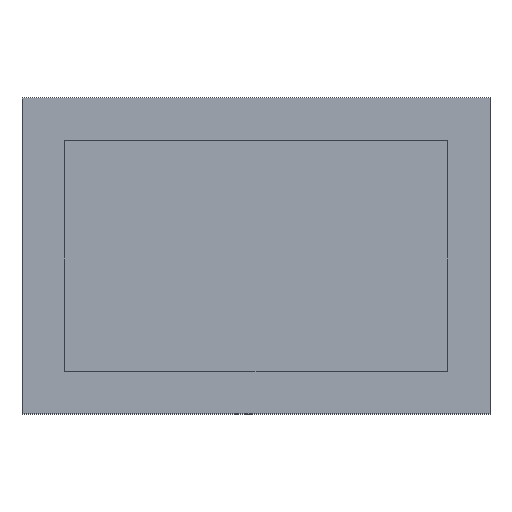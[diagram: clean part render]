
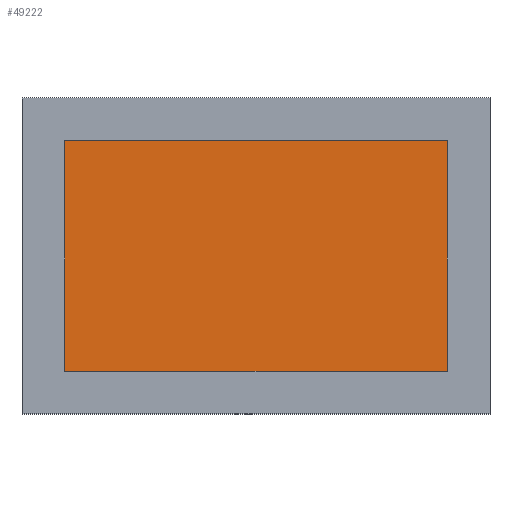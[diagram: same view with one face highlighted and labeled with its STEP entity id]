
A CAD part, top view. The second image highlights one B-rep face of the part: STEP entity #49222.
In plain terms, the highlighted planar face has unit normal (0, 0, 1).
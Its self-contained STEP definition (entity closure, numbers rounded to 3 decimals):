
#560 = EDGE_CURVE ( 'NONE', #6638, #21269, #36019, .T. ) ;
#2848 = DIRECTION ( 'NONE',  ( 0., 0., -1. ) ) ;
#3697 = ORIENTED_EDGE ( 'NONE', *, *, #30766, .T. ) ;
#4094 = FACE_OUTER_BOUND ( 'NONE', #26899, .T. ) ;
#4947 = VECTOR ( 'NONE', #54020, 1000. ) ;
#4971 = ORIENTED_EDGE ( 'NONE', *, *, #30469, .T. ) ;
#5903 = CARTESIAN_POINT ( 'NONE',  ( 54.4, -32.8, 0. ) ) ;
#6638 = VERTEX_POINT ( 'NONE', #29514 ) ;
#9417 = VECTOR ( 'NONE', #62540, 1000. ) ;
#10260 = CARTESIAN_POINT ( 'NONE',  ( 54.4, -32.8, 0. ) ) ;
#10744 = VERTEX_POINT ( 'NONE', #30185 ) ;
#11559 = DIRECTION ( 'NONE',  ( -1., 0., 0. ) ) ;
#12784 = LINE ( 'NONE', #32407, #35816 ) ;
#13429 = CARTESIAN_POINT ( 'NONE',  ( 0., 0., 0. ) ) ;
#17964 = ORIENTED_EDGE ( 'NONE', *, *, #560, .T. ) ;
#19587 = LINE ( 'NONE', #10260, #4947 ) ;
#20822 = AXIS2_PLACEMENT_3D ( 'NONE', #13429, #2848, #27882 ) ;
#21269 = VERTEX_POINT ( 'NONE', #26399 ) ;
#23693 = PLANE ( 'NONE',  #20822 ) ;
#26399 = CARTESIAN_POINT ( 'NONE',  ( -54.4, 32.8, 0. ) ) ;
#26601 = VECTOR ( 'NONE', #11559, 1000. ) ;
#26899 = EDGE_LOOP ( 'NONE', ( #58358, #17964, #3697, #4971 ) ) ;
#27882 = DIRECTION ( 'NONE',  ( -1., 0., 0. ) ) ;
#28416 = CARTESIAN_POINT ( 'NONE',  ( 54.4, 32.8, 0. ) ) ;
#29514 = CARTESIAN_POINT ( 'NONE',  ( 54.4, 32.8, 0. ) ) ;
#30185 = CARTESIAN_POINT ( 'NONE',  ( -54.4, -32.8, 0. ) ) ;
#30469 = EDGE_CURVE ( 'NONE', #10744, #56911, #19587, .T. ) ;
#30766 = EDGE_CURVE ( 'NONE', #21269, #10744, #12784, .T. ) ;
#32407 = CARTESIAN_POINT ( 'NONE',  ( -54.4, 32.8, 0. ) ) ;
#33354 = DIRECTION ( 'NONE',  ( 0., -1., 0. ) ) ;
#35816 = VECTOR ( 'NONE', #33354, 1000. ) ;
#36019 = LINE ( 'NONE', #55635, #26601 ) ;
#49222 = ADVANCED_FACE ( 'NONE', ( #4094 ), #23693, .F. ) ;
#53853 = LINE ( 'NONE', #28416, #9417 ) ;
#54020 = DIRECTION ( 'NONE',  ( 1., 0., 0. ) ) ;
#55635 = CARTESIAN_POINT ( 'NONE',  ( 54.4, 32.8, 0. ) ) ;
#56911 = VERTEX_POINT ( 'NONE', #5903 ) ;
#58280 = EDGE_CURVE ( 'NONE', #56911, #6638, #53853, .T. ) ;
#58358 = ORIENTED_EDGE ( 'NONE', *, *, #58280, .T. ) ;
#62540 = DIRECTION ( 'NONE',  ( 0., 1., 0. ) ) ;
